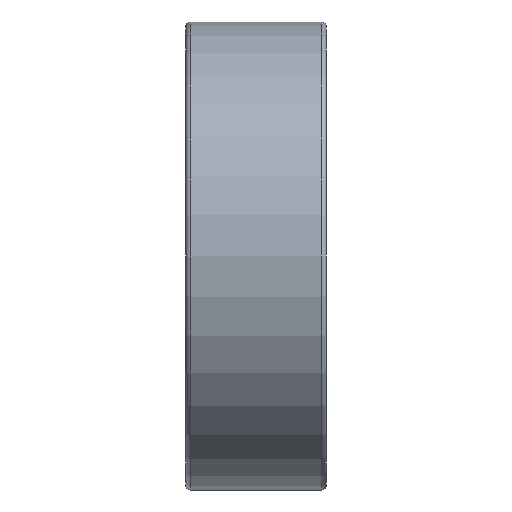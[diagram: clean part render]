
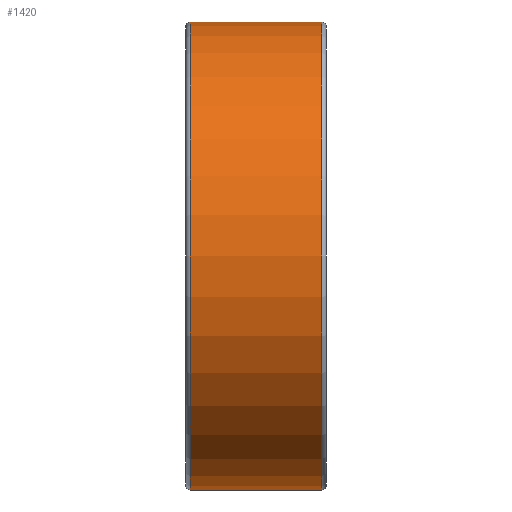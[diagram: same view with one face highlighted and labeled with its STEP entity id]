
A CAD part, front view. The second image highlights one B-rep face of the part: STEP entity #1420.
In plain terms, the highlighted cylindrical face has radius 5 mm (diameter 10 mm), a partial arc.
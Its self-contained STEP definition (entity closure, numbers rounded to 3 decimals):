
#483=CARTESIAN_POINT('',(1.4,0.,0.));
#484=DIRECTION('',(-1.,0.,0.));
#485=DIRECTION('',(0.,0.,-1.));
#486=AXIS2_PLACEMENT_3D('',#483,#484,#485);
#488=DIRECTION('',(-1.,0.,0.));
#489=VECTOR('',#488,2.8);
#490=CARTESIAN_POINT('',(1.4,0.,-5.));
#491=LINE('',#490,#489);
#492=DIRECTION('',(-1.,0.,0.));
#493=VECTOR('',#492,2.8);
#494=CARTESIAN_POINT('',(1.4,0.,5.));
#495=LINE('',#494,#493);
#511=CARTESIAN_POINT('',(-1.4,0.,0.));
#512=DIRECTION('',(1.,0.,0.));
#513=DIRECTION('',(0.,0.,1.));
#514=AXIS2_PLACEMENT_3D('',#511,#512,#513);
#848=CARTESIAN_POINT('',(1.4,0.,5.));
#849=VERTEX_POINT('',#848);
#850=CARTESIAN_POINT('',(1.4,0.,-5.));
#851=VERTEX_POINT('',#850);
#856=CARTESIAN_POINT('',(-1.4,0.,-5.));
#857=VERTEX_POINT('',#856);
#858=CARTESIAN_POINT('',(-1.4,0.,5.));
#859=VERTEX_POINT('',#858);
#1406=CARTESIAN_POINT('',(0.,0.,0.));
#1407=DIRECTION('',(-1.,0.,0.));
#1408=DIRECTION('',(0.,0.,1.));
#1409=AXIS2_PLACEMENT_3D('',#1406,#1407,#1408);
#1410=CYLINDRICAL_SURFACE('',#1409,5.);
#1412=ORIENTED_EDGE('',*,*,#1411,.T.);
#1414=ORIENTED_EDGE('',*,*,#1413,.F.);
#1416=ORIENTED_EDGE('',*,*,#1415,.F.);
#1417=ORIENTED_EDGE('',*,*,#1399,.F.);
#1418=EDGE_LOOP('',(#1412,#1414,#1416,#1417));
#1419=FACE_OUTER_BOUND('',#1418,.F.);
#1420=ADVANCED_FACE('',(#1419),#1410,.T.);
#487=CIRCLE('',#486,5.);
#515=CIRCLE('',#514,5.);
#1399=EDGE_CURVE('',#851,#849,#487,.T.);
#1411=EDGE_CURVE('',#851,#857,#491,.T.);
#1413=EDGE_CURVE('',#859,#857,#515,.T.);
#1415=EDGE_CURVE('',#849,#859,#495,.T.);
